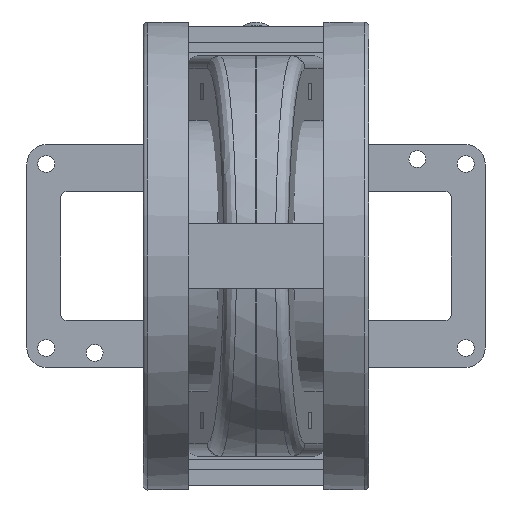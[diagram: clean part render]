
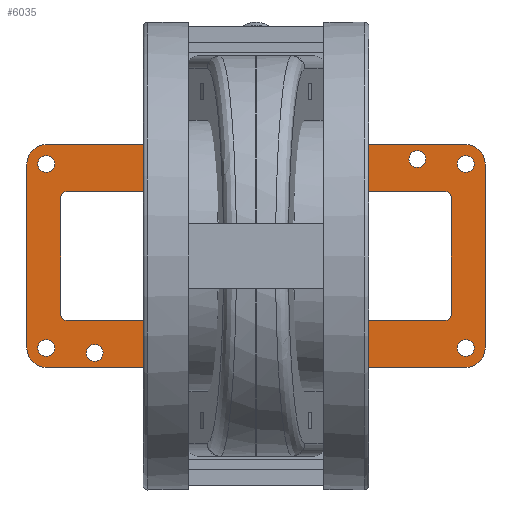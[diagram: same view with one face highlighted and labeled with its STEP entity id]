
A CAD part, front view. The second image highlights one B-rep face of the part: STEP entity #6035.
In plain terms, the highlighted planar face has unit normal (0, -1, 0) as drawn and (0, 0, -1) by its records, which use the part's own axes.
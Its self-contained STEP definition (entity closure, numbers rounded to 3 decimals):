
#4000=FACE_BOUND('',#8361,.T.);
#4001=FACE_BOUND('',#8362,.T.);
#4002=FACE_BOUND('',#8363,.T.);
#4003=FACE_BOUND('',#8364,.T.);
#4004=FACE_BOUND('',#8365,.T.);
#4005=FACE_BOUND('',#8366,.T.);
#4006=FACE_BOUND('',#8367,.T.);
#4007=FACE_BOUND('',#8368,.T.);
#5178=CIRCLE('',#21773,2.);
#5179=CIRCLE('',#21775,2.);
#5180=CIRCLE('',#21778,2.);
#5181=CIRCLE('',#21780,6.);
#5182=CIRCLE('',#21783,6.);
#5183=CIRCLE('',#21785,6.);
#5184=CIRCLE('',#21788,2.);
#5185=CIRCLE('',#21790,2.6);
#5186=CIRCLE('',#21792,6.);
#5187=CIRCLE('',#21794,2.6);
#5188=CIRCLE('',#21796,2.6);
#5189=CIRCLE('',#21797,2.6);
#5190=CIRCLE('',#21798,2.6);
#5191=CIRCLE('',#21799,2.6);
#6035=ADVANCED_FACE('',(#4000,#4001,#4002,#4003,#4004,#4005,#4006,#4007),
#6837,.F.);
#6837=PLANE('',#21800);
#8361=EDGE_LOOP('',(#13895));
#8362=EDGE_LOOP('',(#13896));
#8363=EDGE_LOOP('',(#13897));
#8364=EDGE_LOOP('',(#13898));
#8365=EDGE_LOOP('',(#13899,#13900,#13901,#13902,#13903,#13904,#13905,#13906));
#8366=EDGE_LOOP('',(#13907));
#8367=EDGE_LOOP('',(#13908,#13909,#13910,#13911,#13912,#13913,#13914,#13915));
#8368=EDGE_LOOP('',(#13916));
#9706=LINE('',#30371,#11153);
#9712=LINE('',#30384,#11159);
#9719=LINE('',#30398,#11166);
#9727=LINE('',#30412,#11174);
#9765=LINE('',#30498,#11212);
#9769=LINE('',#30510,#11216);
#9772=LINE('',#30520,#11219);
#9775=LINE('',#30530,#11222);
#11153=VECTOR('',#24587,1.);
#11159=VECTOR('',#24595,1.);
#11166=VECTOR('',#24604,1.);
#11174=VECTOR('',#24614,1.);
#11212=VECTOR('',#24682,1.);
#11216=VECTOR('',#24696,1.);
#11219=VECTOR('',#24709,1.);
#11222=VECTOR('',#24722,1.);
#13895=ORIENTED_EDGE('',*,*,#19536,.T.);
#13896=ORIENTED_EDGE('',*,*,#19537,.T.);
#13897=ORIENTED_EDGE('',*,*,#19538,.T.);
#13898=ORIENTED_EDGE('',*,*,#19539,.T.);
#13899=ORIENTED_EDGE('',*,*,#19460,.F.);
#13900=ORIENTED_EDGE('',*,*,#19534,.F.);
#13901=ORIENTED_EDGE('',*,*,#19530,.F.);
#13902=ORIENTED_EDGE('',*,*,#19528,.F.);
#13903=ORIENTED_EDGE('',*,*,#19468,.F.);
#13904=ORIENTED_EDGE('',*,*,#19527,.F.);
#13905=ORIENTED_EDGE('',*,*,#19525,.F.);
#13906=ORIENTED_EDGE('',*,*,#19523,.F.);
#13907=ORIENTED_EDGE('',*,*,#19533,.T.);
#13908=ORIENTED_EDGE('',*,*,#19514,.F.);
#13909=ORIENTED_EDGE('',*,*,#19532,.F.);
#13910=ORIENTED_EDGE('',*,*,#19453,.F.);
#13911=ORIENTED_EDGE('',*,*,#19522,.F.);
#13912=ORIENTED_EDGE('',*,*,#19520,.F.);
#13913=ORIENTED_EDGE('',*,*,#19518,.F.);
#13914=ORIENTED_EDGE('',*,*,#19447,.F.);
#13915=ORIENTED_EDGE('',*,*,#19517,.F.);
#13916=ORIENTED_EDGE('',*,*,#19535,.T.);
#17497=VERTEX_POINT('',#30370);
#17498=VERTEX_POINT('',#30372);
#17503=VERTEX_POINT('',#30383);
#17504=VERTEX_POINT('',#30385);
#17509=VERTEX_POINT('',#30397);
#17510=VERTEX_POINT('',#30399);
#17514=VERTEX_POINT('',#30411);
#17515=VERTEX_POINT('',#30413);
#17548=VERTEX_POINT('',#30499);
#17549=VERTEX_POINT('',#30500);
#17550=VERTEX_POINT('',#30507);
#17551=VERTEX_POINT('',#30511);
#17552=VERTEX_POINT('',#30517);
#17553=VERTEX_POINT('',#30521);
#17554=VERTEX_POINT('',#30527);
#17555=VERTEX_POINT('',#30531);
#17556=VERTEX_POINT('',#30537);
#17557=VERTEX_POINT('',#30542);
#17558=VERTEX_POINT('',#30545);
#17559=VERTEX_POINT('',#30547);
#17560=VERTEX_POINT('',#30549);
#17561=VERTEX_POINT('',#30551);
#19447=EDGE_CURVE('',#17497,#17498,#9706,.T.);
#19453=EDGE_CURVE('',#17503,#17504,#9712,.T.);
#19460=EDGE_CURVE('',#17509,#17510,#9719,.T.);
#19468=EDGE_CURVE('',#17514,#17515,#9727,.T.);
#19514=EDGE_CURVE('',#17548,#17549,#9765,.T.);
#19517=EDGE_CURVE('',#17549,#17497,#5178,.T.);
#19518=EDGE_CURVE('',#17498,#17550,#5179,.T.);
#19520=EDGE_CURVE('',#17550,#17551,#9769,.T.);
#19522=EDGE_CURVE('',#17551,#17503,#5180,.T.);
#19523=EDGE_CURVE('',#17510,#17552,#5181,.T.);
#19525=EDGE_CURVE('',#17552,#17553,#9772,.T.);
#19527=EDGE_CURVE('',#17553,#17514,#5182,.T.);
#19528=EDGE_CURVE('',#17515,#17554,#5183,.T.);
#19530=EDGE_CURVE('',#17554,#17555,#9775,.T.);
#19532=EDGE_CURVE('',#17504,#17548,#5184,.T.);
#19533=EDGE_CURVE('',#17556,#17556,#5185,.T.);
#19534=EDGE_CURVE('',#17555,#17509,#5186,.T.);
#19535=EDGE_CURVE('',#17557,#17557,#5187,.T.);
#19536=EDGE_CURVE('',#17558,#17558,#5188,.T.);
#19537=EDGE_CURVE('',#17559,#17559,#5189,.T.);
#19538=EDGE_CURVE('',#17560,#17560,#5190,.T.);
#19539=EDGE_CURVE('',#17561,#17561,#5191,.T.);
#21773=AXIS2_PLACEMENT_3D('',#30504,#24687,#24688);
#21775=AXIS2_PLACEMENT_3D('',#30506,#24691,#24692);
#21778=AXIS2_PLACEMENT_3D('',#30514,#24700,#24701);
#21780=AXIS2_PLACEMENT_3D('',#30516,#24704,#24705);
#21783=AXIS2_PLACEMENT_3D('',#30524,#24713,#24714);
#21785=AXIS2_PLACEMENT_3D('',#30526,#24717,#24718);
#21788=AXIS2_PLACEMENT_3D('',#30534,#24726,#24727);
#21790=AXIS2_PLACEMENT_3D('',#30536,#24730,#24731);
#21792=AXIS2_PLACEMENT_3D('',#30539,#24734,#24735);
#21794=AXIS2_PLACEMENT_3D('',#30541,#24738,#24739);
#21796=AXIS2_PLACEMENT_3D('',#30544,#24742,#24743);
#21797=AXIS2_PLACEMENT_3D('',#30546,#24744,#24745);
#21798=AXIS2_PLACEMENT_3D('',#30548,#24746,#24747);
#21799=AXIS2_PLACEMENT_3D('',#30550,#24748,#24749);
#21800=AXIS2_PLACEMENT_3D('',#30552,#24750,#24751);
#24587=DIRECTION('',(1.,0.,0.));
#24595=DIRECTION('',(-1.,0.,0.));
#24604=DIRECTION('',(-1.,0.,0.));
#24614=DIRECTION('',(1.,0.,0.));
#24682=DIRECTION('',(0.,1.,0.));
#24687=DIRECTION('',(0.,0.,-1.));
#24688=DIRECTION('',(1.,0.,0.));
#24691=DIRECTION('',(0.,0.,-1.));
#24692=DIRECTION('',(1.,0.,0.));
#24696=DIRECTION('',(0.,-1.,0.));
#24700=DIRECTION('',(0.,0.,-1.));
#24701=DIRECTION('',(1.,0.,0.));
#24704=DIRECTION('',(0.,0.,1.));
#24705=DIRECTION('',(1.,0.,0.));
#24709=DIRECTION('',(0.,-1.,0.));
#24713=DIRECTION('',(0.,0.,1.));
#24714=DIRECTION('',(1.,0.,0.));
#24717=DIRECTION('',(0.,0.,1.));
#24718=DIRECTION('',(1.,0.,0.));
#24722=DIRECTION('',(0.,1.,0.));
#24726=DIRECTION('',(0.,0.,-1.));
#24727=DIRECTION('',(1.,0.,0.));
#24730=DIRECTION('',(0.,0.,1.));
#24731=DIRECTION('',(1.,0.,0.));
#24734=DIRECTION('',(0.,0.,1.));
#24735=DIRECTION('',(1.,0.,0.));
#24738=DIRECTION('',(0.,0.,1.));
#24739=DIRECTION('',(1.,0.,0.));
#24742=DIRECTION('',(0.,0.,1.));
#24743=DIRECTION('',(1.,0.,0.));
#24744=DIRECTION('',(0.,0.,1.));
#24745=DIRECTION('',(1.,0.,0.));
#24746=DIRECTION('',(0.,0.,1.));
#24747=DIRECTION('',(1.,0.,0.));
#24748=DIRECTION('',(0.,0.,1.));
#24749=DIRECTION('',(1.,0.,0.));
#24750=DIRECTION('',(0.,0.,1.));
#24751=DIRECTION('',(1.,0.,0.));
#30370=CARTESIAN_POINT('',(-58.5,20.,0.));
#30371=CARTESIAN_POINT('',(-58.5,20.,0.));
#30372=CARTESIAN_POINT('',(58.5,20.,0.));
#30383=CARTESIAN_POINT('',(58.5,-20.,0.));
#30384=CARTESIAN_POINT('',(58.5,-20.,0.));
#30385=CARTESIAN_POINT('',(-58.5,-20.,0.));
#30397=CARTESIAN_POINT('',(65.,34.5,0.));
#30398=CARTESIAN_POINT('',(65.,34.5,0.));
#30399=CARTESIAN_POINT('',(-65.,34.5,0.));
#30411=CARTESIAN_POINT('',(-65.,-34.5,0.));
#30412=CARTESIAN_POINT('',(-65.,-34.5,0.));
#30413=CARTESIAN_POINT('',(65.,-34.5,0.));
#30498=CARTESIAN_POINT('',(-60.5,-18.,0.));
#30499=CARTESIAN_POINT('',(-60.5,-18.,0.));
#30500=CARTESIAN_POINT('',(-60.5,18.,0.));
#30504=CARTESIAN_POINT('',(-58.5,18.,0.));
#30506=CARTESIAN_POINT('',(58.5,18.,0.));
#30507=CARTESIAN_POINT('',(60.5,18.,0.));
#30510=CARTESIAN_POINT('',(60.5,18.,0.));
#30511=CARTESIAN_POINT('',(60.5,-18.,0.));
#30514=CARTESIAN_POINT('',(58.5,-18.,0.));
#30516=CARTESIAN_POINT('',(-65.,28.5,0.));
#30517=CARTESIAN_POINT('',(-71.,28.5,0.));
#30520=CARTESIAN_POINT('',(-71.,28.5,0.));
#30521=CARTESIAN_POINT('',(-71.,-28.5,0.));
#30524=CARTESIAN_POINT('',(-65.,-28.5,0.));
#30526=CARTESIAN_POINT('',(65.,-28.5,0.));
#30527=CARTESIAN_POINT('',(71.,-28.5,0.));
#30530=CARTESIAN_POINT('',(71.,-28.5,0.));
#30531=CARTESIAN_POINT('',(71.,28.5,0.));
#30534=CARTESIAN_POINT('',(-58.5,-18.,0.));
#30536=CARTESIAN_POINT('',(-50.,30.,0.));
#30537=CARTESIAN_POINT('',(-47.4,30.,0.));
#30539=CARTESIAN_POINT('',(65.,28.5,0.));
#30541=CARTESIAN_POINT('',(50.,-30.,0.));
#30542=CARTESIAN_POINT('',(52.6,-30.,0.));
#30544=CARTESIAN_POINT('',(65.,28.5,0.));
#30545=CARTESIAN_POINT('',(67.6,28.5,0.));
#30546=CARTESIAN_POINT('',(65.,-28.5,0.));
#30547=CARTESIAN_POINT('',(67.6,-28.5,0.));
#30548=CARTESIAN_POINT('',(-65.,28.5,0.));
#30549=CARTESIAN_POINT('',(-62.4,28.5,0.));
#30550=CARTESIAN_POINT('',(-65.,-28.5,0.));
#30551=CARTESIAN_POINT('',(-62.4,-28.5,0.));
#30552=CARTESIAN_POINT('',(-65.,28.5,0.));
